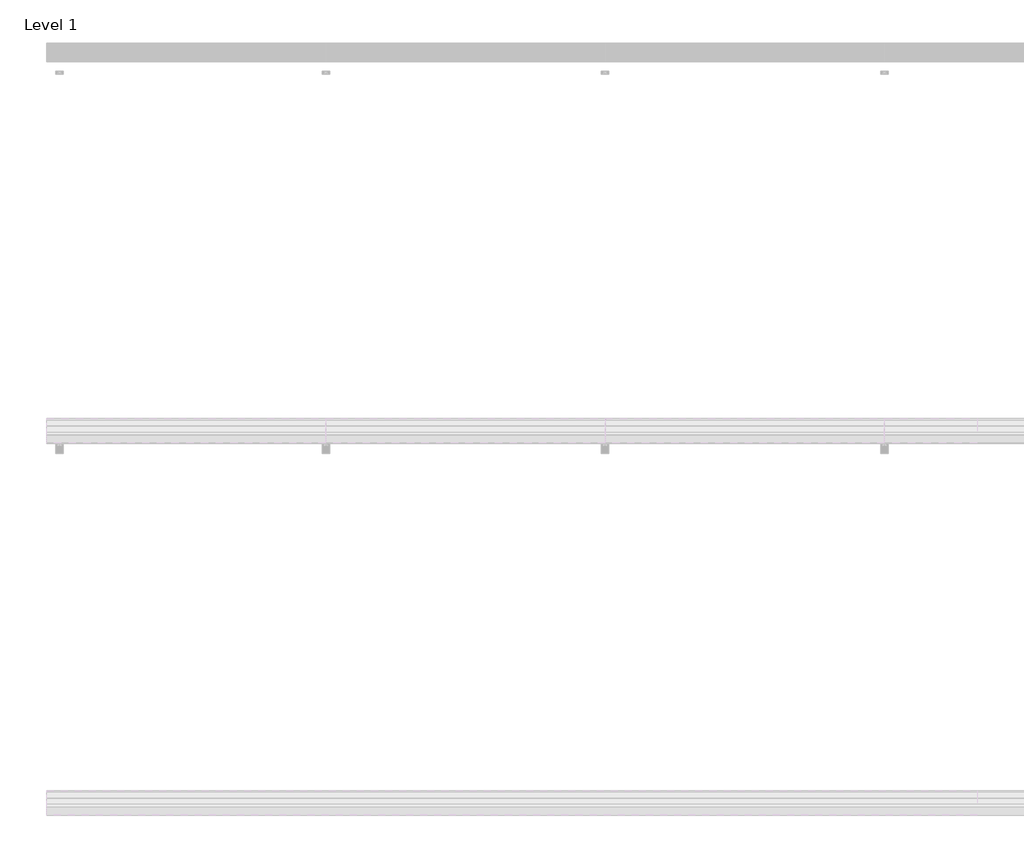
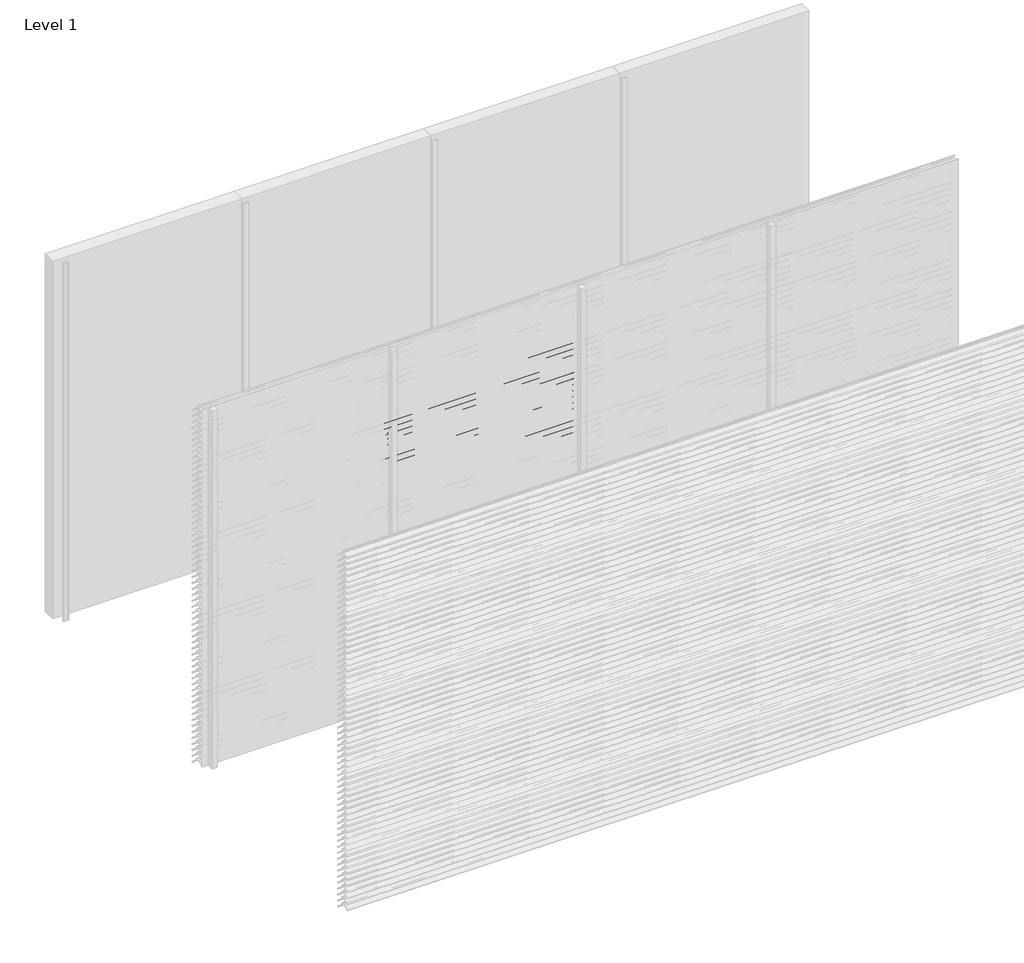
# One storey, part 79 of 173: 17 proxies.
"""IFC4 building model written with IfcOpenShell, lengths in millimetres."""

from ifc_helpers import new_model, si_unit, point, frame, frame_2d, origin, place, context, project, spatial, polyline, circle_curve, trimmed, segment, composite_curve, outline, extrude, element, save

model = new_model("IFC4")

# Units and contexts
model_context = context("Model", 3, world=origin())
ifc_project = project(units=[si_unit("LENGTHUNIT", "METRE", prefix="MILLI")], contexts=[model_context])

# Site, building, storey
site = spatial("IfcSite", under=ifc_project)
building = spatial("IfcBuilding", under=site)
storey = spatial("IfcBuildingStorey", under=building, Name="Level 1", Elevation=0.0)

# Proxies
placement = place(None, origin())
element("IfcBuildingElementProxy", 1, Name="Wall Sweeps", at=placement, inside=storey, context=model_context, shape_type="SweptSolid", body=[
    extrude(outline(composite_curve([segment(polyline([(-29998.0, 2459.1474905), (-29998.0, 2461.6227417)]), True, "CONTINUOUS"), segment(trimmed(circle_curve(frame_2d((-29951.2682172, 2416.2200208)), 65.1557103), [point((-29998.0, 2461.6227417))], [point((-29954.4014323, 2481.3003524))], False, "CARTESIAN"), True, "CONTINUOUS"), segment(polyline([(-29954.4014323, 2481.3003524), (-29934.8315836, 2481.3003524)]), True, "CONTINUOUS"), segment(trimmed(circle_curve(frame_2d((-29732.7329489, 2628.5533172)), 250.0545817), [point((-29934.8315836, 2481.3003524))], [point((-29941.4452143, 2490.8344583))], False, "CARTESIAN"), True, "CONTINUOUS"), segment(trimmed(circle_curve(frame_2d((-29953.2981792, 2485.1737835)), 13.1352966), [point((-29941.4452143, 2490.8344583))], [point((-29953.8171475, 2498.298824))], True, "CARTESIAN"), True, "CONTINUOUS"), segment(polyline([(-29953.8171475, 2498.298824), (-29953.8171475, 2500.0)]), True, "CONTINUOUS"), segment(trimmed(circle_curve(frame_2d((-29953.2981792, 2485.1737835)), 14.8352966), [point((-29953.8171475, 2500.0))], [point((-29939.9637661, 2491.6760487))], False, "CARTESIAN"), True, "CONTINUOUS"), segment(trimmed(circle_curve(frame_2d((-29732.7329489, 2628.5533172)), 248.3545817), [point((-29939.9637661, 2491.6760487))], [point((-29873.8787895, 2424.2059416))], True, "CARTESIAN"), True, "CONTINUOUS"), segment(trimmed(circle_curve(frame_2d((-29883.8147537, 2411.6649442)), 16.0), [point((-29873.8787895, 2424.2059416))], [point((-29867.8648347, 2410.4))], False, "CARTESIAN"), True, "CONTINUOUS"), segment(polyline([(-29867.8648347, 2410.4), (-29869.6712069, 2410.4)]), True, "CONTINUOUS"), segment(trimmed(circle_curve(frame_2d((-29883.8147537, 2411.6649442)), 14.2), [point((-29869.6712069, 2410.4))], [point((-29874.9518628, 2422.7594998))], True, "CARTESIAN"), True, "CONTINUOUS"), segment(trimmed(circle_curve(frame_2d((-29732.7329489, 2628.5533172)), 250.1545817), [point((-29874.9518628, 2422.7594998))], [point((-29933.7064024, 2479.6003524))], False, "CARTESIAN"), True, "CONTINUOUS"), segment(polyline([(-29933.7064024, 2479.6003524), (-29954.3602632, 2479.6003524)]), True, "CONTINUOUS"), segment(trimmed(circle_curve(frame_2d((-29951.2682172, 2416.2200208)), 63.4557103), [point((-29954.3602632, 2479.6003524))], [point((-29998.0, 2459.1474905))], True, "CARTESIAN"), True, "CONTINUOUS")], self_intersect=False)), frame((1500.0, 0.0, 0.0), z_axis=(1.0, 0.0, 0.0), x_axis=(0.0, 1.0, 0.0)), (0.0, 0.0, 1.0), 1500.0),
])
element("IfcBuildingElementProxy", 2, Name="Wall Sweeps", at=placement, inside=storey, context=model_context, shape_type="SweptSolid", body=[
    extrude(outline(composite_curve([segment(polyline([(-29998.0, 2409.1474905), (-29998.0, 2411.6227417)]), True, "CONTINUOUS"), segment(trimmed(circle_curve(frame_2d((-29951.2682172, 2366.2200208)), 65.1557103), [point((-29998.0, 2411.6227417))], [point((-29954.4014323, 2431.3003524))], False, "CARTESIAN"), True, "CONTINUOUS"), segment(polyline([(-29954.4014323, 2431.3003524), (-29934.8315836, 2431.3003524)]), True, "CONTINUOUS"), segment(trimmed(circle_curve(frame_2d((-29732.7329489, 2578.5533172)), 250.0545817), [point((-29934.8315836, 2431.3003524))], [point((-29941.4452143, 2440.8344583))], False, "CARTESIAN"), True, "CONTINUOUS"), segment(trimmed(circle_curve(frame_2d((-29953.2981792, 2435.1737835)), 13.1352966), [point((-29941.4452143, 2440.8344583))], [point((-29953.8171475, 2448.298824))], True, "CARTESIAN"), True, "CONTINUOUS"), segment(polyline([(-29953.8171475, 2448.298824), (-29953.8171475, 2450.0)]), True, "CONTINUOUS"), segment(trimmed(circle_curve(frame_2d((-29953.2981792, 2435.1737835)), 14.8352966), [point((-29953.8171475, 2450.0))], [point((-29939.9637661, 2441.6760487))], False, "CARTESIAN"), True, "CONTINUOUS"), segment(trimmed(circle_curve(frame_2d((-29732.7329489, 2578.5533172)), 248.3545817), [point((-29939.9637661, 2441.6760487))], [point((-29873.8787895, 2374.2059416))], True, "CARTESIAN"), True, "CONTINUOUS"), segment(trimmed(circle_curve(frame_2d((-29883.8147537, 2361.6649442)), 16.0), [point((-29873.8787895, 2374.2059416))], [point((-29867.8648347, 2360.4))], False, "CARTESIAN"), True, "CONTINUOUS"), segment(polyline([(-29867.8648347, 2360.4), (-29869.6712069, 2360.4)]), True, "CONTINUOUS"), segment(trimmed(circle_curve(frame_2d((-29883.8147537, 2361.6649442)), 14.2), [point((-29869.6712069, 2360.4))], [point((-29874.9518628, 2372.7594998))], True, "CARTESIAN"), True, "CONTINUOUS"), segment(trimmed(circle_curve(frame_2d((-29732.7329489, 2578.5533172)), 250.1545817), [point((-29874.9518628, 2372.7594998))], [point((-29933.7064024, 2429.6003524))], False, "CARTESIAN"), True, "CONTINUOUS"), segment(polyline([(-29933.7064024, 2429.6003524), (-29954.3602632, 2429.6003524)]), True, "CONTINUOUS"), segment(trimmed(circle_curve(frame_2d((-29951.2682172, 2366.2200208)), 63.4557103), [point((-29954.3602632, 2429.6003524))], [point((-29998.0, 2409.1474905))], True, "CARTESIAN"), True, "CONTINUOUS")], self_intersect=False)), frame((1500.0, 0.0, 0.0), z_axis=(1.0, 0.0, 0.0), x_axis=(0.0, 1.0, 0.0)), (0.0, 0.0, 1.0), 1500.0),
])
element("IfcBuildingElementProxy", 3, Name="Wall Sweeps", at=placement, inside=storey, context=model_context, shape_type="SweptSolid", body=[
    extrude(outline(composite_curve([segment(polyline([(-29998.0, 2359.1474905), (-29998.0, 2361.6227417)]), True, "CONTINUOUS"), segment(trimmed(circle_curve(frame_2d((-29951.2682172, 2316.2200208)), 65.1557103), [point((-29998.0, 2361.6227417))], [point((-29954.4014323, 2381.3003524))], False, "CARTESIAN"), True, "CONTINUOUS"), segment(polyline([(-29954.4014323, 2381.3003524), (-29934.8315836, 2381.3003524)]), True, "CONTINUOUS"), segment(trimmed(circle_curve(frame_2d((-29732.7329489, 2528.5533172)), 250.0545817), [point((-29934.8315836, 2381.3003524))], [point((-29941.4452143, 2390.8344583))], False, "CARTESIAN"), True, "CONTINUOUS"), segment(trimmed(circle_curve(frame_2d((-29953.2981792, 2385.1737835)), 13.1352966), [point((-29941.4452143, 2390.8344583))], [point((-29953.8171475, 2398.298824))], True, "CARTESIAN"), True, "CONTINUOUS"), segment(polyline([(-29953.8171475, 2398.298824), (-29953.8171475, 2400.0)]), True, "CONTINUOUS"), segment(trimmed(circle_curve(frame_2d((-29953.2981792, 2385.1737835)), 14.8352966), [point((-29953.8171475, 2400.0))], [point((-29939.9637661, 2391.6760487))], False, "CARTESIAN"), True, "CONTINUOUS"), segment(trimmed(circle_curve(frame_2d((-29732.7329489, 2528.5533172)), 248.3545817), [point((-29939.9637661, 2391.6760487))], [point((-29873.8787895, 2324.2059416))], True, "CARTESIAN"), True, "CONTINUOUS"), segment(trimmed(circle_curve(frame_2d((-29883.8147537, 2311.6649442)), 16.0), [point((-29873.8787895, 2324.2059416))], [point((-29867.8648347, 2310.4))], False, "CARTESIAN"), True, "CONTINUOUS"), segment(polyline([(-29867.8648347, 2310.4), (-29869.6712069, 2310.4)]), True, "CONTINUOUS"), segment(trimmed(circle_curve(frame_2d((-29883.8147537, 2311.6649442)), 14.2), [point((-29869.6712069, 2310.4))], [point((-29874.9518628, 2322.7594998))], True, "CARTESIAN"), True, "CONTINUOUS"), segment(trimmed(circle_curve(frame_2d((-29732.7329489, 2528.5533172)), 250.1545817), [point((-29874.9518628, 2322.7594998))], [point((-29933.7064024, 2379.6003524))], False, "CARTESIAN"), True, "CONTINUOUS"), segment(polyline([(-29933.7064024, 2379.6003524), (-29954.3602632, 2379.6003524)]), True, "CONTINUOUS"), segment(trimmed(circle_curve(frame_2d((-29951.2682172, 2316.2200208)), 63.4557103), [point((-29954.3602632, 2379.6003524))], [point((-29998.0, 2359.1474905))], True, "CARTESIAN"), True, "CONTINUOUS")], self_intersect=False)), frame((1500.0, 0.0, 0.0), z_axis=(1.0, 0.0, 0.0), x_axis=(0.0, 1.0, 0.0)), (0.0, 0.0, 1.0), 1500.0),
])
element("IfcBuildingElementProxy", 4, Name="Wall Sweeps", at=placement, inside=storey, context=model_context, shape_type="SweptSolid", body=[
    extrude(outline(composite_curve([segment(polyline([(-29998.0, 2309.1474905), (-29998.0, 2311.6227417)]), True, "CONTINUOUS"), segment(trimmed(circle_curve(frame_2d((-29951.2682172, 2266.2200208)), 65.1557103), [point((-29998.0, 2311.6227417))], [point((-29954.4014323, 2331.3003524))], False, "CARTESIAN"), True, "CONTINUOUS"), segment(polyline([(-29954.4014323, 2331.3003524), (-29934.8315836, 2331.3003524)]), True, "CONTINUOUS"), segment(trimmed(circle_curve(frame_2d((-29732.7329489, 2478.5533172)), 250.0545817), [point((-29934.8315836, 2331.3003524))], [point((-29941.4452143, 2340.8344583))], False, "CARTESIAN"), True, "CONTINUOUS"), segment(trimmed(circle_curve(frame_2d((-29953.2981792, 2335.1737835)), 13.1352966), [point((-29941.4452143, 2340.8344583))], [point((-29953.8171475, 2348.298824))], True, "CARTESIAN"), True, "CONTINUOUS"), segment(polyline([(-29953.8171475, 2348.298824), (-29953.8171475, 2350.0)]), True, "CONTINUOUS"), segment(trimmed(circle_curve(frame_2d((-29953.2981792, 2335.1737835)), 14.8352966), [point((-29953.8171475, 2350.0))], [point((-29939.9637661, 2341.6760487))], False, "CARTESIAN"), True, "CONTINUOUS"), segment(trimmed(circle_curve(frame_2d((-29732.7329489, 2478.5533172)), 248.3545817), [point((-29939.9637661, 2341.6760487))], [point((-29873.8787895, 2274.2059416))], True, "CARTESIAN"), True, "CONTINUOUS"), segment(trimmed(circle_curve(frame_2d((-29883.8147537, 2261.6649442)), 16.0), [point((-29873.8787895, 2274.2059416))], [point((-29867.8648347, 2260.4))], False, "CARTESIAN"), True, "CONTINUOUS"), segment(polyline([(-29867.8648347, 2260.4), (-29869.6712069, 2260.4)]), True, "CONTINUOUS"), segment(trimmed(circle_curve(frame_2d((-29883.8147537, 2261.6649442)), 14.2), [point((-29869.6712069, 2260.4))], [point((-29874.9518628, 2272.7594998))], True, "CARTESIAN"), True, "CONTINUOUS"), segment(trimmed(circle_curve(frame_2d((-29732.7329489, 2478.5533172)), 250.1545817), [point((-29874.9518628, 2272.7594998))], [point((-29933.7064024, 2329.6003524))], False, "CARTESIAN"), True, "CONTINUOUS"), segment(polyline([(-29933.7064024, 2329.6003524), (-29954.3602632, 2329.6003524)]), True, "CONTINUOUS"), segment(trimmed(circle_curve(frame_2d((-29951.2682172, 2266.2200208)), 63.4557103), [point((-29954.3602632, 2329.6003524))], [point((-29998.0, 2309.1474905))], True, "CARTESIAN"), True, "CONTINUOUS")], self_intersect=False)), frame((1500.0, 0.0, 0.0), z_axis=(1.0, 0.0, 0.0), x_axis=(0.0, 1.0, 0.0)), (0.0, 0.0, 1.0), 1500.0),
])
element("IfcBuildingElementProxy", 5, Name="Wall Sweeps", at=placement, inside=storey, context=model_context, shape_type="SweptSolid", body=[
    extrude(outline(composite_curve([segment(polyline([(-29998.0, 2259.1474905), (-29998.0, 2261.6227417)]), True, "CONTINUOUS"), segment(trimmed(circle_curve(frame_2d((-29951.2682172, 2216.2200208)), 65.1557103), [point((-29998.0, 2261.6227417))], [point((-29954.4014323, 2281.3003524))], False, "CARTESIAN"), True, "CONTINUOUS"), segment(polyline([(-29954.4014323, 2281.3003524), (-29934.8315836, 2281.3003524)]), True, "CONTINUOUS"), segment(trimmed(circle_curve(frame_2d((-29732.7329489, 2428.5533172)), 250.0545817), [point((-29934.8315836, 2281.3003524))], [point((-29941.4452143, 2290.8344583))], False, "CARTESIAN"), True, "CONTINUOUS"), segment(trimmed(circle_curve(frame_2d((-29953.2981792, 2285.1737835)), 13.1352966), [point((-29941.4452143, 2290.8344583))], [point((-29953.8171475, 2298.298824))], True, "CARTESIAN"), True, "CONTINUOUS"), segment(polyline([(-29953.8171475, 2298.298824), (-29953.8171475, 2300.0)]), True, "CONTINUOUS"), segment(trimmed(circle_curve(frame_2d((-29953.2981792, 2285.1737835)), 14.8352966), [point((-29953.8171475, 2300.0))], [point((-29939.9637661, 2291.6760487))], False, "CARTESIAN"), True, "CONTINUOUS"), segment(trimmed(circle_curve(frame_2d((-29732.7329489, 2428.5533172)), 248.3545817), [point((-29939.9637661, 2291.6760487))], [point((-29873.8787895, 2224.2059416))], True, "CARTESIAN"), True, "CONTINUOUS"), segment(trimmed(circle_curve(frame_2d((-29883.8147537, 2211.6649442)), 16.0), [point((-29873.8787895, 2224.2059416))], [point((-29867.8648347, 2210.4))], False, "CARTESIAN"), True, "CONTINUOUS"), segment(polyline([(-29867.8648347, 2210.4), (-29869.6712069, 2210.4)]), True, "CONTINUOUS"), segment(trimmed(circle_curve(frame_2d((-29883.8147537, 2211.6649442)), 14.2), [point((-29869.6712069, 2210.4))], [point((-29874.9518628, 2222.7594998))], True, "CARTESIAN"), True, "CONTINUOUS"), segment(trimmed(circle_curve(frame_2d((-29732.7329489, 2428.5533172)), 250.1545817), [point((-29874.9518628, 2222.7594998))], [point((-29933.7064024, 2279.6003524))], False, "CARTESIAN"), True, "CONTINUOUS"), segment(polyline([(-29933.7064024, 2279.6003524), (-29954.3602632, 2279.6003524)]), True, "CONTINUOUS"), segment(trimmed(circle_curve(frame_2d((-29951.2682172, 2216.2200208)), 63.4557103), [point((-29954.3602632, 2279.6003524))], [point((-29998.0, 2259.1474905))], True, "CARTESIAN"), True, "CONTINUOUS")], self_intersect=False)), frame((1500.0, 0.0, 0.0), z_axis=(1.0, 0.0, 0.0), x_axis=(0.0, 1.0, 0.0)), (0.0, 0.0, 1.0), 1500.0),
])
element("IfcBuildingElementProxy", 6, Name="Wall Sweeps", at=placement, inside=storey, context=model_context, shape_type="SweptSolid", body=[
    extrude(outline(composite_curve([segment(polyline([(-29998.0, 2209.1474905), (-29998.0, 2211.6227417)]), True, "CONTINUOUS"), segment(trimmed(circle_curve(frame_2d((-29951.2682172, 2166.2200208)), 65.1557103), [point((-29998.0, 2211.6227417))], [point((-29954.4014323, 2231.3003524))], False, "CARTESIAN"), True, "CONTINUOUS"), segment(polyline([(-29954.4014323, 2231.3003524), (-29934.8315836, 2231.3003524)]), True, "CONTINUOUS"), segment(trimmed(circle_curve(frame_2d((-29732.7329489, 2378.5533172)), 250.0545817), [point((-29934.8315836, 2231.3003524))], [point((-29941.4452143, 2240.8344583))], False, "CARTESIAN"), True, "CONTINUOUS"), segment(trimmed(circle_curve(frame_2d((-29953.2981792, 2235.1737835)), 13.1352966), [point((-29941.4452143, 2240.8344583))], [point((-29953.8171475, 2248.298824))], True, "CARTESIAN"), True, "CONTINUOUS"), segment(polyline([(-29953.8171475, 2248.298824), (-29953.8171475, 2250.0)]), True, "CONTINUOUS"), segment(trimmed(circle_curve(frame_2d((-29953.2981792, 2235.1737835)), 14.8352966), [point((-29953.8171475, 2250.0))], [point((-29939.9637661, 2241.6760487))], False, "CARTESIAN"), True, "CONTINUOUS"), segment(trimmed(circle_curve(frame_2d((-29732.7329489, 2378.5533172)), 248.3545817), [point((-29939.9637661, 2241.6760487))], [point((-29873.8787895, 2174.2059416))], True, "CARTESIAN"), True, "CONTINUOUS"), segment(trimmed(circle_curve(frame_2d((-29883.8147537, 2161.6649442)), 16.0), [point((-29873.8787895, 2174.2059416))], [point((-29867.8648347, 2160.4))], False, "CARTESIAN"), True, "CONTINUOUS"), segment(polyline([(-29867.8648347, 2160.4), (-29869.6712069, 2160.4)]), True, "CONTINUOUS"), segment(trimmed(circle_curve(frame_2d((-29883.8147537, 2161.6649442)), 14.2), [point((-29869.6712069, 2160.4))], [point((-29874.9518628, 2172.7594998))], True, "CARTESIAN"), True, "CONTINUOUS"), segment(trimmed(circle_curve(frame_2d((-29732.7329489, 2378.5533172)), 250.1545817), [point((-29874.9518628, 2172.7594998))], [point((-29933.7064024, 2229.6003524))], False, "CARTESIAN"), True, "CONTINUOUS"), segment(polyline([(-29933.7064024, 2229.6003524), (-29954.3602632, 2229.6003524)]), True, "CONTINUOUS"), segment(trimmed(circle_curve(frame_2d((-29951.2682172, 2166.2200208)), 63.4557103), [point((-29954.3602632, 2229.6003524))], [point((-29998.0, 2209.1474905))], True, "CARTESIAN"), True, "CONTINUOUS")], self_intersect=False)), frame((1500.0, 0.0, 0.0), z_axis=(1.0, 0.0, 0.0), x_axis=(0.0, 1.0, 0.0)), (0.0, 0.0, 1.0), 1500.0),
])
element("IfcBuildingElementProxy", 7, Name="Wall Sweeps", at=placement, inside=storey, context=model_context, shape_type="SweptSolid", body=[
    extrude(outline(composite_curve([segment(polyline([(-29998.0, 2159.1474905), (-29998.0, 2161.6227417)]), True, "CONTINUOUS"), segment(trimmed(circle_curve(frame_2d((-29951.2682172, 2116.2200208)), 65.1557103), [point((-29998.0, 2161.6227417))], [point((-29954.4014323, 2181.3003524))], False, "CARTESIAN"), True, "CONTINUOUS"), segment(polyline([(-29954.4014323, 2181.3003524), (-29934.8315836, 2181.3003524)]), True, "CONTINUOUS"), segment(trimmed(circle_curve(frame_2d((-29732.7329489, 2328.5533172)), 250.0545817), [point((-29934.8315836, 2181.3003524))], [point((-29941.4452143, 2190.8344583))], False, "CARTESIAN"), True, "CONTINUOUS"), segment(trimmed(circle_curve(frame_2d((-29953.2981792, 2185.1737835)), 13.1352966), [point((-29941.4452143, 2190.8344583))], [point((-29953.8171475, 2198.298824))], True, "CARTESIAN"), True, "CONTINUOUS"), segment(polyline([(-29953.8171475, 2198.298824), (-29953.8171475, 2200.0)]), True, "CONTINUOUS"), segment(trimmed(circle_curve(frame_2d((-29953.2981792, 2185.1737835)), 14.8352966), [point((-29953.8171475, 2200.0))], [point((-29939.9637661, 2191.6760487))], False, "CARTESIAN"), True, "CONTINUOUS"), segment(trimmed(circle_curve(frame_2d((-29732.7329489, 2328.5533172)), 248.3545817), [point((-29939.9637661, 2191.6760487))], [point((-29873.8787895, 2124.2059416))], True, "CARTESIAN"), True, "CONTINUOUS"), segment(trimmed(circle_curve(frame_2d((-29883.8147537, 2111.6649442)), 16.0), [point((-29873.8787895, 2124.2059416))], [point((-29867.8648347, 2110.4))], False, "CARTESIAN"), True, "CONTINUOUS"), segment(polyline([(-29867.8648347, 2110.4), (-29869.6712069, 2110.4)]), True, "CONTINUOUS"), segment(trimmed(circle_curve(frame_2d((-29883.8147537, 2111.6649442)), 14.2), [point((-29869.6712069, 2110.4))], [point((-29874.9518628, 2122.7594998))], True, "CARTESIAN"), True, "CONTINUOUS"), segment(trimmed(circle_curve(frame_2d((-29732.7329489, 2328.5533172)), 250.1545817), [point((-29874.9518628, 2122.7594998))], [point((-29933.7064024, 2179.6003524))], False, "CARTESIAN"), True, "CONTINUOUS"), segment(polyline([(-29933.7064024, 2179.6003524), (-29954.3602632, 2179.6003524)]), True, "CONTINUOUS"), segment(trimmed(circle_curve(frame_2d((-29951.2682172, 2116.2200208)), 63.4557103), [point((-29954.3602632, 2179.6003524))], [point((-29998.0, 2159.1474905))], True, "CARTESIAN"), True, "CONTINUOUS")], self_intersect=False)), frame((1500.0, 0.0, 0.0), z_axis=(1.0, 0.0, 0.0), x_axis=(0.0, 1.0, 0.0)), (0.0, 0.0, 1.0), 1500.0),
])
element("IfcBuildingElementProxy", 8, Name="Wall Sweeps", at=placement, inside=storey, context=model_context, shape_type="SweptSolid", body=[
    extrude(outline(composite_curve([segment(polyline([(-29998.0, 2109.1474905), (-29998.0, 2111.6227417)]), True, "CONTINUOUS"), segment(trimmed(circle_curve(frame_2d((-29951.2682172, 2066.2200208)), 65.1557103), [point((-29998.0, 2111.6227417))], [point((-29954.4014323, 2131.3003524))], False, "CARTESIAN"), True, "CONTINUOUS"), segment(polyline([(-29954.4014323, 2131.3003524), (-29934.8315836, 2131.3003524)]), True, "CONTINUOUS"), segment(trimmed(circle_curve(frame_2d((-29732.7329489, 2278.5533172)), 250.0545817), [point((-29934.8315836, 2131.3003524))], [point((-29941.4452143, 2140.8344583))], False, "CARTESIAN"), True, "CONTINUOUS"), segment(trimmed(circle_curve(frame_2d((-29953.2981792, 2135.1737835)), 13.1352966), [point((-29941.4452143, 2140.8344583))], [point((-29953.8171475, 2148.298824))], True, "CARTESIAN"), True, "CONTINUOUS"), segment(polyline([(-29953.8171475, 2148.298824), (-29953.8171475, 2150.0)]), True, "CONTINUOUS"), segment(trimmed(circle_curve(frame_2d((-29953.2981792, 2135.1737835)), 14.8352966), [point((-29953.8171475, 2150.0))], [point((-29939.9637661, 2141.6760487))], False, "CARTESIAN"), True, "CONTINUOUS"), segment(trimmed(circle_curve(frame_2d((-29732.7329489, 2278.5533172)), 248.3545817), [point((-29939.9637661, 2141.6760487))], [point((-29873.8787895, 2074.2059416))], True, "CARTESIAN"), True, "CONTINUOUS"), segment(trimmed(circle_curve(frame_2d((-29883.8147537, 2061.6649442)), 16.0), [point((-29873.8787895, 2074.2059416))], [point((-29867.8648347, 2060.4))], False, "CARTESIAN"), True, "CONTINUOUS"), segment(polyline([(-29867.8648347, 2060.4), (-29869.6712069, 2060.4)]), True, "CONTINUOUS"), segment(trimmed(circle_curve(frame_2d((-29883.8147537, 2061.6649442)), 14.2), [point((-29869.6712069, 2060.4))], [point((-29874.9518628, 2072.7594998))], True, "CARTESIAN"), True, "CONTINUOUS"), segment(trimmed(circle_curve(frame_2d((-29732.7329489, 2278.5533172)), 250.1545817), [point((-29874.9518628, 2072.7594998))], [point((-29933.7064024, 2129.6003524))], False, "CARTESIAN"), True, "CONTINUOUS"), segment(polyline([(-29933.7064024, 2129.6003524), (-29954.3602632, 2129.6003524)]), True, "CONTINUOUS"), segment(trimmed(circle_curve(frame_2d((-29951.2682172, 2066.2200208)), 63.4557103), [point((-29954.3602632, 2129.6003524))], [point((-29998.0, 2109.1474905))], True, "CARTESIAN"), True, "CONTINUOUS")], self_intersect=False)), frame((1500.0, 0.0, 0.0), z_axis=(1.0, 0.0, 0.0), x_axis=(0.0, 1.0, 0.0)), (0.0, 0.0, 1.0), 1500.0),
])
element("IfcBuildingElementProxy", 9, Name="Wall Sweeps", at=placement, inside=storey, context=model_context, shape_type="SweptSolid", body=[
    extrude(outline(composite_curve([segment(polyline([(-29998.0, 2059.1474905), (-29998.0, 2061.6227417)]), True, "CONTINUOUS"), segment(trimmed(circle_curve(frame_2d((-29951.2682172, 2016.2200208)), 65.1557103), [point((-29998.0, 2061.6227417))], [point((-29954.4014323, 2081.3003524))], False, "CARTESIAN"), True, "CONTINUOUS"), segment(polyline([(-29954.4014323, 2081.3003524), (-29934.8315836, 2081.3003524)]), True, "CONTINUOUS"), segment(trimmed(circle_curve(frame_2d((-29732.7329489, 2228.5533172)), 250.0545817), [point((-29934.8315836, 2081.3003524))], [point((-29941.4452143, 2090.8344583))], False, "CARTESIAN"), True, "CONTINUOUS"), segment(trimmed(circle_curve(frame_2d((-29953.2981792, 2085.1737835)), 13.1352966), [point((-29941.4452143, 2090.8344583))], [point((-29953.8171475, 2098.298824))], True, "CARTESIAN"), True, "CONTINUOUS"), segment(polyline([(-29953.8171475, 2098.298824), (-29953.8171475, 2100.0)]), True, "CONTINUOUS"), segment(trimmed(circle_curve(frame_2d((-29953.2981792, 2085.1737835)), 14.8352966), [point((-29953.8171475, 2100.0))], [point((-29939.9637661, 2091.6760487))], False, "CARTESIAN"), True, "CONTINUOUS"), segment(trimmed(circle_curve(frame_2d((-29732.7329489, 2228.5533172)), 248.3545817), [point((-29939.9637661, 2091.6760487))], [point((-29873.8787895, 2024.2059416))], True, "CARTESIAN"), True, "CONTINUOUS"), segment(trimmed(circle_curve(frame_2d((-29883.8147537, 2011.6649442)), 16.0), [point((-29873.8787895, 2024.2059416))], [point((-29867.8648347, 2010.4))], False, "CARTESIAN"), True, "CONTINUOUS"), segment(polyline([(-29867.8648347, 2010.4), (-29869.6712069, 2010.4)]), True, "CONTINUOUS"), segment(trimmed(circle_curve(frame_2d((-29883.8147537, 2011.6649442)), 14.2), [point((-29869.6712069, 2010.4))], [point((-29874.9518628, 2022.7594998))], True, "CARTESIAN"), True, "CONTINUOUS"), segment(trimmed(circle_curve(frame_2d((-29732.7329489, 2228.5533172)), 250.1545817), [point((-29874.9518628, 2022.7594998))], [point((-29933.7064024, 2079.6003524))], False, "CARTESIAN"), True, "CONTINUOUS"), segment(polyline([(-29933.7064024, 2079.6003524), (-29954.3602632, 2079.6003524)]), True, "CONTINUOUS"), segment(trimmed(circle_curve(frame_2d((-29951.2682172, 2016.2200208)), 63.4557103), [point((-29954.3602632, 2079.6003524))], [point((-29998.0, 2059.1474905))], True, "CARTESIAN"), True, "CONTINUOUS")], self_intersect=False)), frame((1500.0, 0.0, 0.0), z_axis=(1.0, 0.0, 0.0), x_axis=(0.0, 1.0, 0.0)), (0.0, 0.0, 1.0), 1500.0),
])
element("IfcBuildingElementProxy", 10, Name="Wall Sweeps", at=placement, inside=storey, context=model_context, shape_type="SweptSolid", body=[
    extrude(outline(composite_curve([segment(polyline([(-29998.0, 2009.1474905), (-29998.0, 2011.6227417)]), True, "CONTINUOUS"), segment(trimmed(circle_curve(frame_2d((-29951.2682172, 1966.2200208)), 65.1557103), [point((-29998.0, 2011.6227417))], [point((-29954.4014323, 2031.3003524))], False, "CARTESIAN"), True, "CONTINUOUS"), segment(polyline([(-29954.4014323, 2031.3003524), (-29934.8315836, 2031.3003524)]), True, "CONTINUOUS"), segment(trimmed(circle_curve(frame_2d((-29732.7329489, 2178.5533172)), 250.0545817), [point((-29934.8315836, 2031.3003524))], [point((-29941.4452143, 2040.8344583))], False, "CARTESIAN"), True, "CONTINUOUS"), segment(trimmed(circle_curve(frame_2d((-29953.2981792, 2035.1737835)), 13.1352966), [point((-29941.4452143, 2040.8344583))], [point((-29953.8171475, 2048.298824))], True, "CARTESIAN"), True, "CONTINUOUS"), segment(polyline([(-29953.8171475, 2048.298824), (-29953.8171475, 2050.0)]), True, "CONTINUOUS"), segment(trimmed(circle_curve(frame_2d((-29953.2981792, 2035.1737835)), 14.8352966), [point((-29953.8171475, 2050.0))], [point((-29939.9637661, 2041.6760487))], False, "CARTESIAN"), True, "CONTINUOUS"), segment(trimmed(circle_curve(frame_2d((-29732.7329489, 2178.5533172)), 248.3545817), [point((-29939.9637661, 2041.6760487))], [point((-29873.8787895, 1974.2059416))], True, "CARTESIAN"), True, "CONTINUOUS"), segment(trimmed(circle_curve(frame_2d((-29883.8147537, 1961.6649442)), 16.0), [point((-29873.8787895, 1974.2059416))], [point((-29867.8648347, 1960.4))], False, "CARTESIAN"), True, "CONTINUOUS"), segment(polyline([(-29867.8648347, 1960.4), (-29869.6712069, 1960.4)]), True, "CONTINUOUS"), segment(trimmed(circle_curve(frame_2d((-29883.8147537, 1961.6649442)), 14.2), [point((-29869.6712069, 1960.4))], [point((-29874.9518628, 1972.7594998))], True, "CARTESIAN"), True, "CONTINUOUS"), segment(trimmed(circle_curve(frame_2d((-29732.7329489, 2178.5533172)), 250.1545817), [point((-29874.9518628, 1972.7594998))], [point((-29933.7064024, 2029.6003524))], False, "CARTESIAN"), True, "CONTINUOUS"), segment(polyline([(-29933.7064024, 2029.6003524), (-29954.3602632, 2029.6003524)]), True, "CONTINUOUS"), segment(trimmed(circle_curve(frame_2d((-29951.2682172, 1966.2200208)), 63.4557103), [point((-29954.3602632, 2029.6003524))], [point((-29998.0, 2009.1474905))], True, "CARTESIAN"), True, "CONTINUOUS")], self_intersect=False)), frame((1500.0, 0.0, 0.0), z_axis=(1.0, 0.0, 0.0), x_axis=(0.0, 1.0, 0.0)), (0.0, 0.0, 1.0), 1500.0),
])
element("IfcBuildingElementProxy", 11, Name="Wall Sweeps", at=placement, inside=storey, context=model_context, shape_type="SweptSolid", body=[
    extrude(outline(composite_curve([segment(polyline([(-29998.0, 1959.1474905), (-29998.0, 1961.6227417)]), True, "CONTINUOUS"), segment(trimmed(circle_curve(frame_2d((-29951.2682172, 1916.2200208)), 65.1557103), [point((-29998.0, 1961.6227417))], [point((-29954.4014323, 1981.3003524))], False, "CARTESIAN"), True, "CONTINUOUS"), segment(polyline([(-29954.4014323, 1981.3003524), (-29934.8315836, 1981.3003524)]), True, "CONTINUOUS"), segment(trimmed(circle_curve(frame_2d((-29732.7329489, 2128.5533172)), 250.0545817), [point((-29934.8315836, 1981.3003524))], [point((-29941.4452143, 1990.8344583))], False, "CARTESIAN"), True, "CONTINUOUS"), segment(trimmed(circle_curve(frame_2d((-29953.2981792, 1985.1737835)), 13.1352966), [point((-29941.4452143, 1990.8344583))], [point((-29953.8171475, 1998.298824))], True, "CARTESIAN"), True, "CONTINUOUS"), segment(polyline([(-29953.8171475, 1998.298824), (-29953.8171475, 2000.0)]), True, "CONTINUOUS"), segment(trimmed(circle_curve(frame_2d((-29953.2981792, 1985.1737835)), 14.8352966), [point((-29953.8171475, 2000.0))], [point((-29939.9637661, 1991.6760487))], False, "CARTESIAN"), True, "CONTINUOUS"), segment(trimmed(circle_curve(frame_2d((-29732.7329489, 2128.5533172)), 248.3545817), [point((-29939.9637661, 1991.6760487))], [point((-29873.8787895, 1924.2059416))], True, "CARTESIAN"), True, "CONTINUOUS"), segment(trimmed(circle_curve(frame_2d((-29883.8147537, 1911.6649442)), 16.0), [point((-29873.8787895, 1924.2059416))], [point((-29867.8648347, 1910.4))], False, "CARTESIAN"), True, "CONTINUOUS"), segment(polyline([(-29867.8648347, 1910.4), (-29869.6712069, 1910.4)]), True, "CONTINUOUS"), segment(trimmed(circle_curve(frame_2d((-29883.8147537, 1911.6649442)), 14.2), [point((-29869.6712069, 1910.4))], [point((-29874.9518628, 1922.7594998))], True, "CARTESIAN"), True, "CONTINUOUS"), segment(trimmed(circle_curve(frame_2d((-29732.7329489, 2128.5533172)), 250.1545817), [point((-29874.9518628, 1922.7594998))], [point((-29933.7064024, 1979.6003524))], False, "CARTESIAN"), True, "CONTINUOUS"), segment(polyline([(-29933.7064024, 1979.6003524), (-29954.3602632, 1979.6003524)]), True, "CONTINUOUS"), segment(trimmed(circle_curve(frame_2d((-29951.2682172, 1916.2200208)), 63.4557103), [point((-29954.3602632, 1979.6003524))], [point((-29998.0, 1959.1474905))], True, "CARTESIAN"), True, "CONTINUOUS")], self_intersect=False)), frame((1500.0, 0.0, 0.0), z_axis=(1.0, 0.0, 0.0), x_axis=(0.0, 1.0, 0.0)), (0.0, 0.0, 1.0), 1500.0),
])
element("IfcBuildingElementProxy", 12, Name="Wall Sweeps", at=placement, inside=storey, context=model_context, shape_type="SweptSolid", body=[
    extrude(outline(composite_curve([segment(polyline([(-29998.0, 1909.1474905), (-29998.0, 1911.6227417)]), True, "CONTINUOUS"), segment(trimmed(circle_curve(frame_2d((-29951.2682172, 1866.2200208)), 65.1557103), [point((-29998.0, 1911.6227417))], [point((-29954.4014323, 1931.3003524))], False, "CARTESIAN"), True, "CONTINUOUS"), segment(polyline([(-29954.4014323, 1931.3003524), (-29934.8315836, 1931.3003524)]), True, "CONTINUOUS"), segment(trimmed(circle_curve(frame_2d((-29732.7329489, 2078.5533172)), 250.0545817), [point((-29934.8315836, 1931.3003524))], [point((-29941.4452143, 1940.8344583))], False, "CARTESIAN"), True, "CONTINUOUS"), segment(trimmed(circle_curve(frame_2d((-29953.2981792, 1935.1737835)), 13.1352966), [point((-29941.4452143, 1940.8344583))], [point((-29953.8171475, 1948.298824))], True, "CARTESIAN"), True, "CONTINUOUS"), segment(polyline([(-29953.8171475, 1948.298824), (-29953.8171475, 1950.0)]), True, "CONTINUOUS"), segment(trimmed(circle_curve(frame_2d((-29953.2981792, 1935.1737835)), 14.8352966), [point((-29953.8171475, 1950.0))], [point((-29939.9637661, 1941.6760487))], False, "CARTESIAN"), True, "CONTINUOUS"), segment(trimmed(circle_curve(frame_2d((-29732.7329489, 2078.5533172)), 248.3545817), [point((-29939.9637661, 1941.6760487))], [point((-29873.8787895, 1874.2059416))], True, "CARTESIAN"), True, "CONTINUOUS"), segment(trimmed(circle_curve(frame_2d((-29883.8147537, 1861.6649442)), 16.0), [point((-29873.8787895, 1874.2059416))], [point((-29867.8648347, 1860.4))], False, "CARTESIAN"), True, "CONTINUOUS"), segment(polyline([(-29867.8648347, 1860.4), (-29869.6712069, 1860.4)]), True, "CONTINUOUS"), segment(trimmed(circle_curve(frame_2d((-29883.8147537, 1861.6649442)), 14.2), [point((-29869.6712069, 1860.4))], [point((-29874.9518628, 1872.7594998))], True, "CARTESIAN"), True, "CONTINUOUS"), segment(trimmed(circle_curve(frame_2d((-29732.7329489, 2078.5533172)), 250.1545817), [point((-29874.9518628, 1872.7594998))], [point((-29933.7064024, 1929.6003524))], False, "CARTESIAN"), True, "CONTINUOUS"), segment(polyline([(-29933.7064024, 1929.6003524), (-29954.3602632, 1929.6003524)]), True, "CONTINUOUS"), segment(trimmed(circle_curve(frame_2d((-29951.2682172, 1866.2200208)), 63.4557103), [point((-29954.3602632, 1929.6003524))], [point((-29998.0, 1909.1474905))], True, "CARTESIAN"), True, "CONTINUOUS")], self_intersect=False)), frame((1500.0, 0.0, 0.0), z_axis=(1.0, 0.0, 0.0), x_axis=(0.0, 1.0, 0.0)), (0.0, 0.0, 1.0), 1500.0),
])
element("IfcBuildingElementProxy", 13, Name="Wall Sweeps", at=placement, inside=storey, context=model_context, shape_type="SweptSolid", body=[
    extrude(outline(composite_curve([segment(polyline([(-29998.0, 1859.1474905), (-29998.0, 1861.6227417)]), True, "CONTINUOUS"), segment(trimmed(circle_curve(frame_2d((-29951.2682172, 1816.2200208)), 65.1557103), [point((-29998.0, 1861.6227417))], [point((-29954.4014323, 1881.3003524))], False, "CARTESIAN"), True, "CONTINUOUS"), segment(polyline([(-29954.4014323, 1881.3003524), (-29934.8315836, 1881.3003524)]), True, "CONTINUOUS"), segment(trimmed(circle_curve(frame_2d((-29732.7329489, 2028.5533172)), 250.0545817), [point((-29934.8315836, 1881.3003524))], [point((-29941.4452143, 1890.8344583))], False, "CARTESIAN"), True, "CONTINUOUS"), segment(trimmed(circle_curve(frame_2d((-29953.2981792, 1885.1737835)), 13.1352966), [point((-29941.4452143, 1890.8344583))], [point((-29953.8171475, 1898.298824))], True, "CARTESIAN"), True, "CONTINUOUS"), segment(polyline([(-29953.8171475, 1898.298824), (-29953.8171475, 1900.0)]), True, "CONTINUOUS"), segment(trimmed(circle_curve(frame_2d((-29953.2981792, 1885.1737835)), 14.8352966), [point((-29953.8171475, 1900.0))], [point((-29939.9637661, 1891.6760487))], False, "CARTESIAN"), True, "CONTINUOUS"), segment(trimmed(circle_curve(frame_2d((-29732.7329489, 2028.5533172)), 248.3545817), [point((-29939.9637661, 1891.6760487))], [point((-29873.8787895, 1824.2059416))], True, "CARTESIAN"), True, "CONTINUOUS"), segment(trimmed(circle_curve(frame_2d((-29883.8147537, 1811.6649442)), 16.0), [point((-29873.8787895, 1824.2059416))], [point((-29867.8648347, 1810.4))], False, "CARTESIAN"), True, "CONTINUOUS"), segment(polyline([(-29867.8648347, 1810.4), (-29869.6712069, 1810.4)]), True, "CONTINUOUS"), segment(trimmed(circle_curve(frame_2d((-29883.8147537, 1811.6649442)), 14.2), [point((-29869.6712069, 1810.4))], [point((-29874.9518628, 1822.7594998))], True, "CARTESIAN"), True, "CONTINUOUS"), segment(trimmed(circle_curve(frame_2d((-29732.7329489, 2028.5533172)), 250.1545817), [point((-29874.9518628, 1822.7594998))], [point((-29933.7064024, 1879.6003524))], False, "CARTESIAN"), True, "CONTINUOUS"), segment(polyline([(-29933.7064024, 1879.6003524), (-29954.3602632, 1879.6003524)]), True, "CONTINUOUS"), segment(trimmed(circle_curve(frame_2d((-29951.2682172, 1816.2200208)), 63.4557103), [point((-29954.3602632, 1879.6003524))], [point((-29998.0, 1859.1474905))], True, "CARTESIAN"), True, "CONTINUOUS")], self_intersect=False)), frame((1500.0, 0.0, 0.0), z_axis=(1.0, 0.0, 0.0), x_axis=(0.0, 1.0, 0.0)), (0.0, 0.0, 1.0), 1500.0),
])
element("IfcBuildingElementProxy", 14, Name="Wall Sweeps", at=placement, inside=storey, context=model_context, shape_type="SweptSolid", body=[
    extrude(outline(composite_curve([segment(polyline([(-29998.0, 1809.1474905), (-29998.0, 1811.6227417)]), True, "CONTINUOUS"), segment(trimmed(circle_curve(frame_2d((-29951.2682172, 1766.2200208)), 65.1557103), [point((-29998.0, 1811.6227417))], [point((-29954.4014323, 1831.3003524))], False, "CARTESIAN"), True, "CONTINUOUS"), segment(polyline([(-29954.4014323, 1831.3003524), (-29934.8315836, 1831.3003524)]), True, "CONTINUOUS"), segment(trimmed(circle_curve(frame_2d((-29732.7329489, 1978.5533172)), 250.0545817), [point((-29934.8315836, 1831.3003524))], [point((-29941.4452143, 1840.8344583))], False, "CARTESIAN"), True, "CONTINUOUS"), segment(trimmed(circle_curve(frame_2d((-29953.2981792, 1835.1737835)), 13.1352966), [point((-29941.4452143, 1840.8344583))], [point((-29953.8171475, 1848.298824))], True, "CARTESIAN"), True, "CONTINUOUS"), segment(polyline([(-29953.8171475, 1848.298824), (-29953.8171475, 1850.0)]), True, "CONTINUOUS"), segment(trimmed(circle_curve(frame_2d((-29953.2981792, 1835.1737835)), 14.8352966), [point((-29953.8171475, 1850.0))], [point((-29939.9637661, 1841.6760487))], False, "CARTESIAN"), True, "CONTINUOUS"), segment(trimmed(circle_curve(frame_2d((-29732.7329489, 1978.5533172)), 248.3545817), [point((-29939.9637661, 1841.6760487))], [point((-29873.8787895, 1774.2059416))], True, "CARTESIAN"), True, "CONTINUOUS"), segment(trimmed(circle_curve(frame_2d((-29883.8147537, 1761.6649442)), 16.0), [point((-29873.8787895, 1774.2059416))], [point((-29867.8648347, 1760.4))], False, "CARTESIAN"), True, "CONTINUOUS"), segment(polyline([(-29867.8648347, 1760.4), (-29869.6712069, 1760.4)]), True, "CONTINUOUS"), segment(trimmed(circle_curve(frame_2d((-29883.8147537, 1761.6649442)), 14.2), [point((-29869.6712069, 1760.4))], [point((-29874.9518628, 1772.7594998))], True, "CARTESIAN"), True, "CONTINUOUS"), segment(trimmed(circle_curve(frame_2d((-29732.7329489, 1978.5533172)), 250.1545817), [point((-29874.9518628, 1772.7594998))], [point((-29933.7064024, 1829.6003524))], False, "CARTESIAN"), True, "CONTINUOUS"), segment(polyline([(-29933.7064024, 1829.6003524), (-29954.3602632, 1829.6003524)]), True, "CONTINUOUS"), segment(trimmed(circle_curve(frame_2d((-29951.2682172, 1766.2200208)), 63.4557103), [point((-29954.3602632, 1829.6003524))], [point((-29998.0, 1809.1474905))], True, "CARTESIAN"), True, "CONTINUOUS")], self_intersect=False)), frame((1500.0, 0.0, 0.0), z_axis=(1.0, 0.0, 0.0), x_axis=(0.0, 1.0, 0.0)), (0.0, 0.0, 1.0), 1500.0),
])
element("IfcBuildingElementProxy", 15, Name="Wall Sweeps", at=placement, inside=storey, context=model_context, shape_type="SweptSolid", body=[
    extrude(outline(composite_curve([segment(polyline([(-29998.0, 1759.1474905), (-29998.0, 1761.6227417)]), True, "CONTINUOUS"), segment(trimmed(circle_curve(frame_2d((-29951.2682172, 1716.2200208)), 65.1557103), [point((-29998.0, 1761.6227417))], [point((-29954.4014323, 1781.3003524))], False, "CARTESIAN"), True, "CONTINUOUS"), segment(polyline([(-29954.4014323, 1781.3003524), (-29934.8315836, 1781.3003524)]), True, "CONTINUOUS"), segment(trimmed(circle_curve(frame_2d((-29732.7329489, 1928.5533172)), 250.0545817), [point((-29934.8315836, 1781.3003524))], [point((-29941.4452143, 1790.8344583))], False, "CARTESIAN"), True, "CONTINUOUS"), segment(trimmed(circle_curve(frame_2d((-29953.2981792, 1785.1737835)), 13.1352966), [point((-29941.4452143, 1790.8344583))], [point((-29953.8171475, 1798.298824))], True, "CARTESIAN"), True, "CONTINUOUS"), segment(polyline([(-29953.8171475, 1798.298824), (-29953.8171475, 1800.0)]), True, "CONTINUOUS"), segment(trimmed(circle_curve(frame_2d((-29953.2981792, 1785.1737835)), 14.8352966), [point((-29953.8171475, 1800.0))], [point((-29939.9637661, 1791.6760487))], False, "CARTESIAN"), True, "CONTINUOUS"), segment(trimmed(circle_curve(frame_2d((-29732.7329489, 1928.5533172)), 248.3545817), [point((-29939.9637661, 1791.6760487))], [point((-29873.8787895, 1724.2059416))], True, "CARTESIAN"), True, "CONTINUOUS"), segment(trimmed(circle_curve(frame_2d((-29883.8147537, 1711.6649442)), 16.0), [point((-29873.8787895, 1724.2059416))], [point((-29867.8648347, 1710.4))], False, "CARTESIAN"), True, "CONTINUOUS"), segment(polyline([(-29867.8648347, 1710.4), (-29869.6712069, 1710.4)]), True, "CONTINUOUS"), segment(trimmed(circle_curve(frame_2d((-29883.8147537, 1711.6649442)), 14.2), [point((-29869.6712069, 1710.4))], [point((-29874.9518628, 1722.7594998))], True, "CARTESIAN"), True, "CONTINUOUS"), segment(trimmed(circle_curve(frame_2d((-29732.7329489, 1928.5533172)), 250.1545817), [point((-29874.9518628, 1722.7594998))], [point((-29933.7064024, 1779.6003524))], False, "CARTESIAN"), True, "CONTINUOUS"), segment(polyline([(-29933.7064024, 1779.6003524), (-29954.3602632, 1779.6003524)]), True, "CONTINUOUS"), segment(trimmed(circle_curve(frame_2d((-29951.2682172, 1716.2200208)), 63.4557103), [point((-29954.3602632, 1779.6003524))], [point((-29998.0, 1759.1474905))], True, "CARTESIAN"), True, "CONTINUOUS")], self_intersect=False)), frame((1500.0, 0.0, 0.0), z_axis=(1.0, 0.0, 0.0), x_axis=(0.0, 1.0, 0.0)), (0.0, 0.0, 1.0), 1500.0),
])
element("IfcBuildingElementProxy", 16, Name="Wall Sweeps", at=placement, inside=storey, context=model_context, shape_type="SweptSolid", body=[
    extrude(outline(composite_curve([segment(polyline([(-29998.0, 1709.1474905), (-29998.0, 1711.6227417)]), True, "CONTINUOUS"), segment(trimmed(circle_curve(frame_2d((-29951.2682172, 1666.2200208)), 65.1557103), [point((-29998.0, 1711.6227417))], [point((-29954.4014323, 1731.3003524))], False, "CARTESIAN"), True, "CONTINUOUS"), segment(polyline([(-29954.4014323, 1731.3003524), (-29934.8315836, 1731.3003524)]), True, "CONTINUOUS"), segment(trimmed(circle_curve(frame_2d((-29732.7329489, 1878.5533172)), 250.0545817), [point((-29934.8315836, 1731.3003524))], [point((-29941.4452143, 1740.8344583))], False, "CARTESIAN"), True, "CONTINUOUS"), segment(trimmed(circle_curve(frame_2d((-29953.2981792, 1735.1737835)), 13.1352966), [point((-29941.4452143, 1740.8344583))], [point((-29953.8171475, 1748.298824))], True, "CARTESIAN"), True, "CONTINUOUS"), segment(polyline([(-29953.8171475, 1748.298824), (-29953.8171475, 1750.0)]), True, "CONTINUOUS"), segment(trimmed(circle_curve(frame_2d((-29953.2981792, 1735.1737835)), 14.8352966), [point((-29953.8171475, 1750.0))], [point((-29939.9637661, 1741.6760487))], False, "CARTESIAN"), True, "CONTINUOUS"), segment(trimmed(circle_curve(frame_2d((-29732.7329489, 1878.5533172)), 248.3545817), [point((-29939.9637661, 1741.6760487))], [point((-29873.8787895, 1674.2059416))], True, "CARTESIAN"), True, "CONTINUOUS"), segment(trimmed(circle_curve(frame_2d((-29883.8147537, 1661.6649442)), 16.0), [point((-29873.8787895, 1674.2059416))], [point((-29867.8648347, 1660.4))], False, "CARTESIAN"), True, "CONTINUOUS"), segment(polyline([(-29867.8648347, 1660.4), (-29869.6712069, 1660.4)]), True, "CONTINUOUS"), segment(trimmed(circle_curve(frame_2d((-29883.8147537, 1661.6649442)), 14.2), [point((-29869.6712069, 1660.4))], [point((-29874.9518628, 1672.7594998))], True, "CARTESIAN"), True, "CONTINUOUS"), segment(trimmed(circle_curve(frame_2d((-29732.7329489, 1878.5533172)), 250.1545817), [point((-29874.9518628, 1672.7594998))], [point((-29933.7064024, 1729.6003524))], False, "CARTESIAN"), True, "CONTINUOUS"), segment(polyline([(-29933.7064024, 1729.6003524), (-29954.3602632, 1729.6003524)]), True, "CONTINUOUS"), segment(trimmed(circle_curve(frame_2d((-29951.2682172, 1666.2200208)), 63.4557103), [point((-29954.3602632, 1729.6003524))], [point((-29998.0, 1709.1474905))], True, "CARTESIAN"), True, "CONTINUOUS")], self_intersect=False)), frame((1500.0, 0.0, 0.0), z_axis=(1.0, 0.0, 0.0), x_axis=(0.0, 1.0, 0.0)), (0.0, 0.0, 1.0), 1500.0),
])
element("IfcBuildingElementProxy", 17, Name="Wall Sweeps", at=placement, inside=storey, context=model_context, shape_type="SweptSolid", body=[
    extrude(outline(composite_curve([segment(polyline([(-29998.0, 1659.1474905), (-29998.0, 1661.6227417)]), True, "CONTINUOUS"), segment(trimmed(circle_curve(frame_2d((-29951.2682172, 1616.2200208)), 65.1557103), [point((-29998.0, 1661.6227417))], [point((-29954.4014323, 1681.3003524))], False, "CARTESIAN"), True, "CONTINUOUS"), segment(polyline([(-29954.4014323, 1681.3003524), (-29934.8315836, 1681.3003524)]), True, "CONTINUOUS"), segment(trimmed(circle_curve(frame_2d((-29732.7329489, 1828.5533172)), 250.0545817), [point((-29934.8315836, 1681.3003524))], [point((-29941.4452143, 1690.8344583))], False, "CARTESIAN"), True, "CONTINUOUS"), segment(trimmed(circle_curve(frame_2d((-29953.2981792, 1685.1737835)), 13.1352966), [point((-29941.4452143, 1690.8344583))], [point((-29953.8171475, 1698.298824))], True, "CARTESIAN"), True, "CONTINUOUS"), segment(polyline([(-29953.8171475, 1698.298824), (-29953.8171475, 1700.0)]), True, "CONTINUOUS"), segment(trimmed(circle_curve(frame_2d((-29953.2981792, 1685.1737835)), 14.8352966), [point((-29953.8171475, 1700.0))], [point((-29939.9637661, 1691.6760487))], False, "CARTESIAN"), True, "CONTINUOUS"), segment(trimmed(circle_curve(frame_2d((-29732.7329489, 1828.5533172)), 248.3545817), [point((-29939.9637661, 1691.6760487))], [point((-29873.8787895, 1624.2059416))], True, "CARTESIAN"), True, "CONTINUOUS"), segment(trimmed(circle_curve(frame_2d((-29883.8147537, 1611.6649442)), 16.0), [point((-29873.8787895, 1624.2059416))], [point((-29867.8648347, 1610.4))], False, "CARTESIAN"), True, "CONTINUOUS"), segment(polyline([(-29867.8648347, 1610.4), (-29869.6712069, 1610.4)]), True, "CONTINUOUS"), segment(trimmed(circle_curve(frame_2d((-29883.8147537, 1611.6649442)), 14.2), [point((-29869.6712069, 1610.4))], [point((-29874.9518628, 1622.7594998))], True, "CARTESIAN"), True, "CONTINUOUS"), segment(trimmed(circle_curve(frame_2d((-29732.7329489, 1828.5533172)), 250.1545817), [point((-29874.9518628, 1622.7594998))], [point((-29933.7064024, 1679.6003524))], False, "CARTESIAN"), True, "CONTINUOUS"), segment(polyline([(-29933.7064024, 1679.6003524), (-29954.3602632, 1679.6003524)]), True, "CONTINUOUS"), segment(trimmed(circle_curve(frame_2d((-29951.2682172, 1616.2200208)), 63.4557103), [point((-29954.3602632, 1679.6003524))], [point((-29998.0, 1659.1474905))], True, "CARTESIAN"), True, "CONTINUOUS")], self_intersect=False)), frame((1500.0, 0.0, 0.0), z_axis=(1.0, 0.0, 0.0), x_axis=(0.0, 1.0, 0.0)), (0.0, 0.0, 1.0), 1500.0),
])

save(model, "model.ifc")
